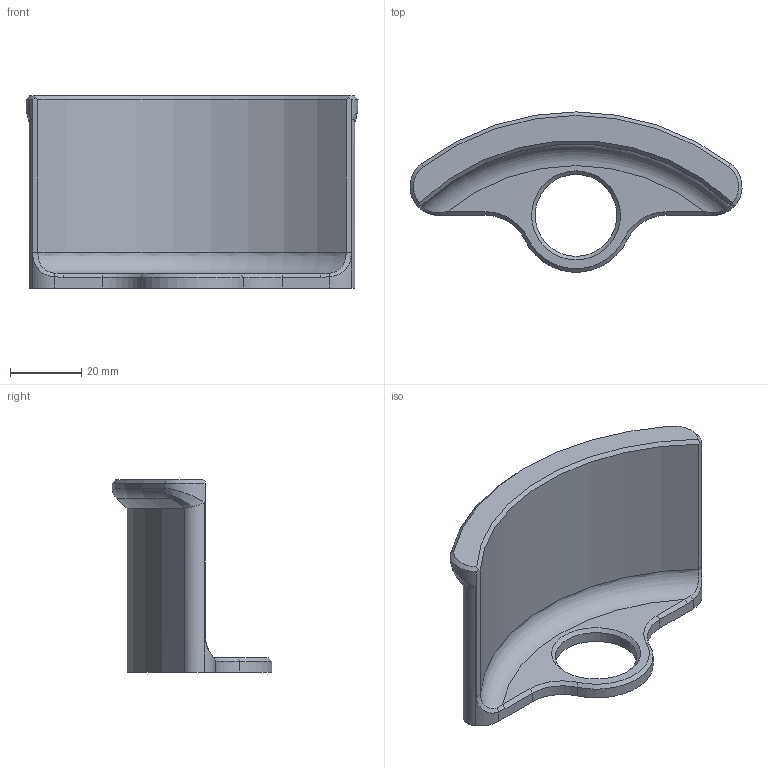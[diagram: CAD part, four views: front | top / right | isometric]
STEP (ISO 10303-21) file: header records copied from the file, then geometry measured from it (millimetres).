
FILE_DESCRIPTION(/* description */ ('STEP AP242','CAx-IF Rec.Pracs.---Representation and Presentation of Product Manufacturing Information (PMI)---4.0---2014-10-13','CAx-IF Rec.Pracs.---3D Tessellated Geometry---0.4---2014-09-14','2;1'),/* implementation_level */ '2;1');
FILE_NAME(/* name */ '65a49aaeaea2867a73bfb39b',/* time_stamp */ '2024-01-15T02:38:39Z',/* author */ (''),/* organization */ (''),/* preprocessor_version */ 'ST-DEVELOPER v19.4',/* originating_system */ ' ',/* authorisation */ ' ');
FILE_SCHEMA (('AP242_MANAGED_MODEL_BASED_3D_ENGINEERING_MIM_LF { 1 0 10303 442 1 1 4 }'));
Length unit declared in the file: metre
Products named in the file (1): Part 1
Bounding box: 93.32 x 44.94 x 54 mm (x, y, z)
Volume: 34961.4 mm3; surface area: 15239 mm2
Topology: 1 solids, 1 shells, 37 faces, 90 edges, 55 vertices
Faces by surface type: cylinder 11, plane 9, cone 9, bspline 6, torus 2
Full cylindrical faces by diameter (mm): 23 x1
Entity records: 1257 total; most frequent: CARTESIAN_POINT 422, ORIENTED_EDGE 176, DIRECTION 156, EDGE_CURVE 88, AXIS2_PLACEMENT_3D 64, VERTEX_POINT 55, EDGE_LOOP 41, FACE_BOUND 41
